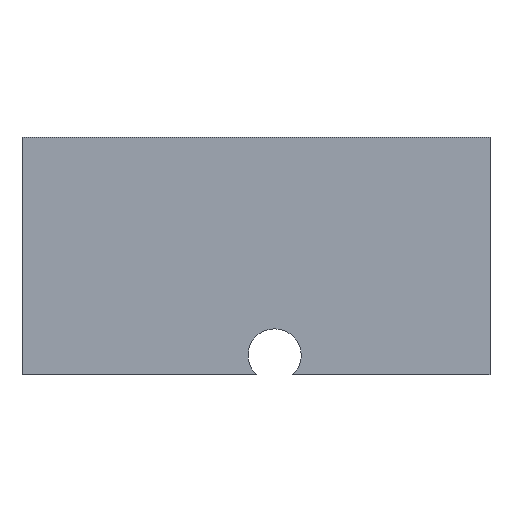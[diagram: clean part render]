
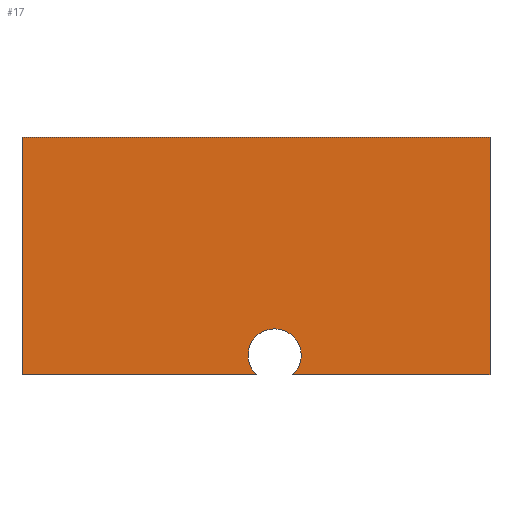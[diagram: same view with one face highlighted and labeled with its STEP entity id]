
A CAD part, left-side view. The second image highlights one B-rep face of the part: STEP entity #17.
In plain terms, the highlighted planar face has unit normal (-1, 0, 0).
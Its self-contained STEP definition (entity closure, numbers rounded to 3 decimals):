
#17 = ADVANCED_FACE('',(#18),#32,.F.);
#18 = FACE_BOUND('',#19,.F.);
#19 = EDGE_LOOP('',(#20,#55,#83,#111,#140,#169,#197));
#20 = ORIENTED_EDGE('',*,*,#21,.F.);
#21 = EDGE_CURVE('',#22,#24,#26,.T.);
#22 = VERTEX_POINT('',#23);
#23 = CARTESIAN_POINT('',(15.5,-42.5,-2.1));
#24 = VERTEX_POINT('',#25);
#25 = CARTESIAN_POINT('',(15.5,-26.2,-2.1));
#26 = SURFACE_CURVE('',#27,(#31,#43),.PCURVE_S1.);
#27 = LINE('',#28,#29);
#28 = CARTESIAN_POINT('',(15.5,-42.5,-2.1));
#29 = VECTOR('',#30,1.);
#30 = DIRECTION('',(-0.,1.,0.));
#31 = PCURVE('',#32,#37);
#32 = PLANE('',#33);
#33 = AXIS2_PLACEMENT_3D('',#34,#35,#36);
#34 = CARTESIAN_POINT('',(15.5,-42.5,-10.375));
#35 = DIRECTION('',(1.,0.,-0.));
#36 = DIRECTION('',(0.,0.,1.));
#37 = DEFINITIONAL_REPRESENTATION('',(#38),#42);
#38 = LINE('',#39,#40);
#39 = CARTESIAN_POINT('',(8.275,0.));
#40 = VECTOR('',#41,1.);
#41 = DIRECTION('',(0.,-1.));
#42 = ( GEOMETRIC_REPRESENTATION_CONTEXT(2) 
PARAMETRIC_REPRESENTATION_CONTEXT() REPRESENTATION_CONTEXT('2D SPACE',''
  ) );
#43 = PCURVE('',#44,#49);
#44 = PLANE('',#45);
#45 = AXIS2_PLACEMENT_3D('',#46,#47,#48);
#46 = CARTESIAN_POINT('',(15.5,-42.5,-2.1));
#47 = DIRECTION('',(0.,0.,1.));
#48 = DIRECTION('',(1.,0.,-0.));
#49 = DEFINITIONAL_REPRESENTATION('',(#50),#54);
#50 = LINE('',#51,#52);
#51 = CARTESIAN_POINT('',(0.,0.));
#52 = VECTOR('',#53,1.);
#53 = DIRECTION('',(0.,1.));
#54 = ( GEOMETRIC_REPRESENTATION_CONTEXT(2) 
PARAMETRIC_REPRESENTATION_CONTEXT() REPRESENTATION_CONTEXT('2D SPACE',''
  ) );
#55 = ORIENTED_EDGE('',*,*,#56,.F.);
#56 = EDGE_CURVE('',#57,#22,#59,.T.);
#57 = VERTEX_POINT('',#58);
#58 = CARTESIAN_POINT('',(15.5,-42.5,-10.375));
#59 = SURFACE_CURVE('',#60,(#64,#71),.PCURVE_S1.);
#60 = LINE('',#61,#62);
#61 = CARTESIAN_POINT('',(15.5,-42.5,-10.375));
#62 = VECTOR('',#63,1.);
#63 = DIRECTION('',(0.,0.,1.));
#64 = PCURVE('',#32,#65);
#65 = DEFINITIONAL_REPRESENTATION('',(#66),#70);
#66 = LINE('',#67,#68);
#67 = CARTESIAN_POINT('',(0.,0.));
#68 = VECTOR('',#69,1.);
#69 = DIRECTION('',(1.,0.));
#70 = ( GEOMETRIC_REPRESENTATION_CONTEXT(2) 
PARAMETRIC_REPRESENTATION_CONTEXT() REPRESENTATION_CONTEXT('2D SPACE',''
  ) );
#71 = PCURVE('',#72,#77);
#72 = PLANE('',#73);
#73 = AXIS2_PLACEMENT_3D('',#74,#75,#76);
#74 = CARTESIAN_POINT('',(15.5,-42.5,-10.375));
#75 = DIRECTION('',(-0.,1.,0.));
#76 = DIRECTION('',(0.,0.,1.));
#77 = DEFINITIONAL_REPRESENTATION('',(#78),#82);
#78 = LINE('',#79,#80);
#79 = CARTESIAN_POINT('',(0.,0.));
#80 = VECTOR('',#81,1.);
#81 = DIRECTION('',(1.,0.));
#82 = ( GEOMETRIC_REPRESENTATION_CONTEXT(2) 
PARAMETRIC_REPRESENTATION_CONTEXT() REPRESENTATION_CONTEXT('2D SPACE',''
  ) );
#83 = ORIENTED_EDGE('',*,*,#84,.T.);
#84 = EDGE_CURVE('',#57,#85,#87,.T.);
#85 = VERTEX_POINT('',#86);
#86 = CARTESIAN_POINT('',(15.5,-35.632,-10.375));
#87 = SURFACE_CURVE('',#88,(#92,#99),.PCURVE_S1.);
#88 = LINE('',#89,#90);
#89 = CARTESIAN_POINT('',(15.5,-42.5,-10.375));
#90 = VECTOR('',#91,1.);
#91 = DIRECTION('',(-0.,1.,0.));
#92 = PCURVE('',#32,#93);
#93 = DEFINITIONAL_REPRESENTATION('',(#94),#98);
#94 = LINE('',#95,#96);
#95 = CARTESIAN_POINT('',(0.,0.));
#96 = VECTOR('',#97,1.);
#97 = DIRECTION('',(0.,-1.));
#98 = ( GEOMETRIC_REPRESENTATION_CONTEXT(2) 
PARAMETRIC_REPRESENTATION_CONTEXT() REPRESENTATION_CONTEXT('2D SPACE',''
  ) );
#99 = PCURVE('',#100,#105);
#100 = PLANE('',#101);
#101 = AXIS2_PLACEMENT_3D('',#102,#103,#104);
#102 = CARTESIAN_POINT('',(15.5,-42.5,-10.375));
#103 = DIRECTION('',(0.,0.,1.));
#104 = DIRECTION('',(1.,0.,-0.));
#105 = DEFINITIONAL_REPRESENTATION('',(#106),#110);
#106 = LINE('',#107,#108);
#107 = CARTESIAN_POINT('',(0.,0.));
#108 = VECTOR('',#109,1.);
#109 = DIRECTION('',(0.,1.));
#110 = ( GEOMETRIC_REPRESENTATION_CONTEXT(2) 
PARAMETRIC_REPRESENTATION_CONTEXT() REPRESENTATION_CONTEXT('2D SPACE',''
  ) );
#111 = ORIENTED_EDGE('',*,*,#112,.F.);
#112 = EDGE_CURVE('',#113,#85,#115,.T.);
#113 = VERTEX_POINT('',#114);
#114 = CARTESIAN_POINT('',(15.5,-35.,-8.775));
#115 = SURFACE_CURVE('',#116,(#121,#128),.PCURVE_S1.);
#116 = CIRCLE('',#117,0.925);
#117 = AXIS2_PLACEMENT_3D('',#118,#119,#120);
#118 = CARTESIAN_POINT('',(15.5,-35.,-9.7));
#119 = DIRECTION('',(1.,0.,0.));
#120 = DIRECTION('',(-0.,0.,1.));
#121 = PCURVE('',#32,#122);
#122 = DEFINITIONAL_REPRESENTATION('',(#123),#127);
#123 = CIRCLE('',#124,0.925);
#124 = AXIS2_PLACEMENT_2D('',#125,#126);
#125 = CARTESIAN_POINT('',(0.675,-7.5));
#126 = DIRECTION('',(1.,0.));
#127 = ( GEOMETRIC_REPRESENTATION_CONTEXT(2) 
PARAMETRIC_REPRESENTATION_CONTEXT() REPRESENTATION_CONTEXT('2D SPACE',''
  ) );
#128 = PCURVE('',#129,#134);
#129 = CYLINDRICAL_SURFACE('',#130,0.925);
#130 = AXIS2_PLACEMENT_3D('',#131,#132,#133);
#131 = CARTESIAN_POINT('',(15.,-35.,-9.7));
#132 = DIRECTION('',(1.,0.,0.));
#133 = DIRECTION('',(-0.,0.,1.));
#134 = DEFINITIONAL_REPRESENTATION('',(#135),#139);
#135 = LINE('',#136,#137);
#136 = CARTESIAN_POINT('',(0.,0.5));
#137 = VECTOR('',#138,1.);
#138 = DIRECTION('',(1.,0.));
#139 = ( GEOMETRIC_REPRESENTATION_CONTEXT(2) 
PARAMETRIC_REPRESENTATION_CONTEXT() REPRESENTATION_CONTEXT('2D SPACE',''
  ) );
#140 = ORIENTED_EDGE('',*,*,#141,.F.);
#141 = EDGE_CURVE('',#142,#113,#144,.T.);
#142 = VERTEX_POINT('',#143);
#143 = CARTESIAN_POINT('',(15.5,-34.368,-10.375));
#144 = SURFACE_CURVE('',#145,(#150,#157),.PCURVE_S1.);
#145 = CIRCLE('',#146,0.925);
#146 = AXIS2_PLACEMENT_3D('',#147,#148,#149);
#147 = CARTESIAN_POINT('',(15.5,-35.,-9.7));
#148 = DIRECTION('',(1.,0.,0.));
#149 = DIRECTION('',(-0.,0.,1.));
#150 = PCURVE('',#32,#151);
#151 = DEFINITIONAL_REPRESENTATION('',(#152),#156);
#152 = CIRCLE('',#153,0.925);
#153 = AXIS2_PLACEMENT_2D('',#154,#155);
#154 = CARTESIAN_POINT('',(0.675,-7.5));
#155 = DIRECTION('',(1.,0.));
#156 = ( GEOMETRIC_REPRESENTATION_CONTEXT(2) 
PARAMETRIC_REPRESENTATION_CONTEXT() REPRESENTATION_CONTEXT('2D SPACE',''
  ) );
#157 = PCURVE('',#158,#163);
#158 = CYLINDRICAL_SURFACE('',#159,0.925);
#159 = AXIS2_PLACEMENT_3D('',#160,#161,#162);
#160 = CARTESIAN_POINT('',(15.,-35.,-9.7));
#161 = DIRECTION('',(1.,0.,0.));
#162 = DIRECTION('',(-0.,0.,1.));
#163 = DEFINITIONAL_REPRESENTATION('',(#164),#168);
#164 = LINE('',#165,#166);
#165 = CARTESIAN_POINT('',(0.,0.5));
#166 = VECTOR('',#167,1.);
#167 = DIRECTION('',(1.,0.));
#168 = ( GEOMETRIC_REPRESENTATION_CONTEXT(2) 
PARAMETRIC_REPRESENTATION_CONTEXT() REPRESENTATION_CONTEXT('2D SPACE',''
  ) );
#169 = ORIENTED_EDGE('',*,*,#170,.T.);
#170 = EDGE_CURVE('',#142,#171,#173,.T.);
#171 = VERTEX_POINT('',#172);
#172 = CARTESIAN_POINT('',(15.5,-26.2,-10.375));
#173 = SURFACE_CURVE('',#174,(#178,#185),.PCURVE_S1.);
#174 = LINE('',#175,#176);
#175 = CARTESIAN_POINT('',(15.5,-42.5,-10.375));
#176 = VECTOR('',#177,1.);
#177 = DIRECTION('',(-0.,1.,0.));
#178 = PCURVE('',#32,#179);
#179 = DEFINITIONAL_REPRESENTATION('',(#180),#184);
#180 = LINE('',#181,#182);
#181 = CARTESIAN_POINT('',(0.,0.));
#182 = VECTOR('',#183,1.);
#183 = DIRECTION('',(0.,-1.));
#184 = ( GEOMETRIC_REPRESENTATION_CONTEXT(2) 
PARAMETRIC_REPRESENTATION_CONTEXT() REPRESENTATION_CONTEXT('2D SPACE',''
  ) );
#185 = PCURVE('',#186,#191);
#186 = PLANE('',#187);
#187 = AXIS2_PLACEMENT_3D('',#188,#189,#190);
#188 = CARTESIAN_POINT('',(15.5,-42.5,-10.375));
#189 = DIRECTION('',(0.,0.,1.));
#190 = DIRECTION('',(1.,0.,-0.));
#191 = DEFINITIONAL_REPRESENTATION('',(#192),#196);
#192 = LINE('',#193,#194);
#193 = CARTESIAN_POINT('',(0.,0.));
#194 = VECTOR('',#195,1.);
#195 = DIRECTION('',(0.,1.));
#196 = ( GEOMETRIC_REPRESENTATION_CONTEXT(2) 
PARAMETRIC_REPRESENTATION_CONTEXT() REPRESENTATION_CONTEXT('2D SPACE',''
  ) );
#197 = ORIENTED_EDGE('',*,*,#198,.T.);
#198 = EDGE_CURVE('',#171,#24,#199,.T.);
#199 = SURFACE_CURVE('',#200,(#204,#211),.PCURVE_S1.);
#200 = LINE('',#201,#202);
#201 = CARTESIAN_POINT('',(15.5,-26.2,-10.375));
#202 = VECTOR('',#203,1.);
#203 = DIRECTION('',(0.,0.,1.));
#204 = PCURVE('',#32,#205);
#205 = DEFINITIONAL_REPRESENTATION('',(#206),#210);
#206 = LINE('',#207,#208);
#207 = CARTESIAN_POINT('',(0.,-16.3));
#208 = VECTOR('',#209,1.);
#209 = DIRECTION('',(1.,0.));
#210 = ( GEOMETRIC_REPRESENTATION_CONTEXT(2) 
PARAMETRIC_REPRESENTATION_CONTEXT() REPRESENTATION_CONTEXT('2D SPACE',''
  ) );
#211 = PCURVE('',#212,#217);
#212 = PLANE('',#213);
#213 = AXIS2_PLACEMENT_3D('',#214,#215,#216);
#214 = CARTESIAN_POINT('',(15.5,-26.2,-10.375));
#215 = DIRECTION('',(-0.,1.,0.));
#216 = DIRECTION('',(0.,0.,1.));
#217 = DEFINITIONAL_REPRESENTATION('',(#218),#222);
#218 = LINE('',#219,#220);
#219 = CARTESIAN_POINT('',(0.,0.));
#220 = VECTOR('',#221,1.);
#221 = DIRECTION('',(1.,0.));
#222 = ( GEOMETRIC_REPRESENTATION_CONTEXT(2) 
PARAMETRIC_REPRESENTATION_CONTEXT() REPRESENTATION_CONTEXT('2D SPACE',''
  ) );
